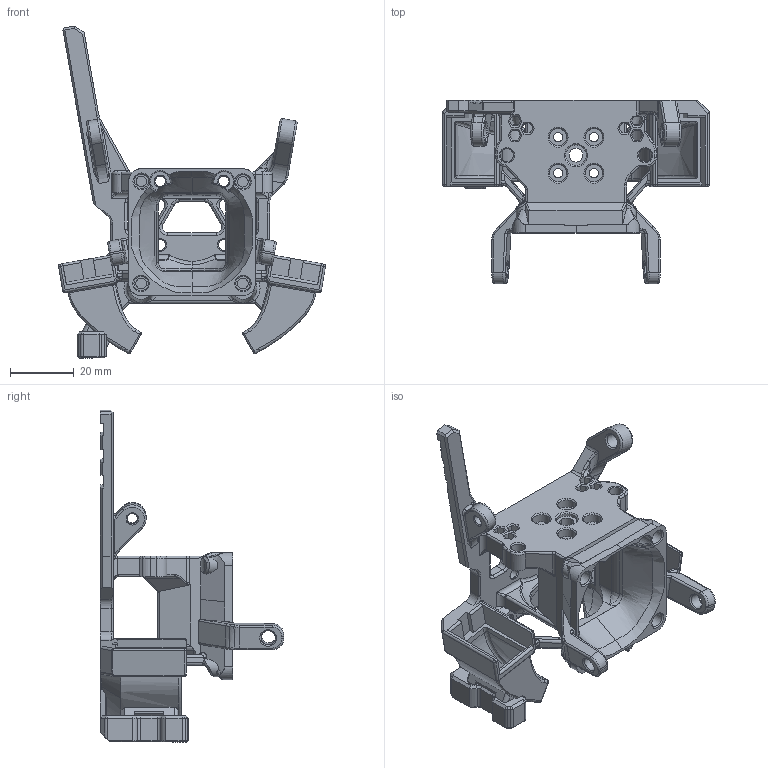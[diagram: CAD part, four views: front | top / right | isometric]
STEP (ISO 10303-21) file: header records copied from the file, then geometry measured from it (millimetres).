
FILE_DESCRIPTION(/* description */ (''),/* implementation_level */ '2;1');
FILE_NAME(/* name */ 'Toolhead Body_Sherpa Mini.step',/* time_stamp */ '2023-10-06T05:47:57-05:00',/* author */ (''),/* organization */ (''),/* preprocessor_version */ 'ST-DEVELOPER v20',/* originating_system */ 'Autodesk Translation Framework v12.14.0.127',/* authorisation */ '');
FILE_SCHEMA (('AUTOMOTIVE_DESIGN { 1 0 10303 214 3 1 1 }'));
Products named in the file (3): ToolHead Body w/ Beacon; Quickdraw Holder; Hardware (1)
Assembly tree (2 placements, depth 3):
  ToolHead Body w/ Beacon
    Quickdraw Holder
      Hardware (1)
Bounding box: 84.01 x 57.7 x 104.44 mm (x, y, z)
Volume: 35293.2 mm3; surface area: 27256.6 mm2
Topology: 1 solids, 1 shells, 1104 faces, 2971 edges, 1833 vertices
Faces by surface type: plane 390, cylinder 314, bspline 260, torus 68, cone 66, sphere 6
Full cylindrical faces by diameter (mm): 2 x2, 2.9 x4, 3.3 x11, 4.1 x4, 4.5 x7, 5.5 x4, 6.1 x1, 6.2 x2, 6.5 x1
Entity records: 67319 total; most frequent: CARTESIAN_POINT 41228, ORIENTED_EDGE 5890, DIRECTION 4823, EDGE_CURVE 2945, VERTEX_POINT 1833, AXIS2_PLACEMENT_3D 1741, LINE 1341, VECTOR 1341
